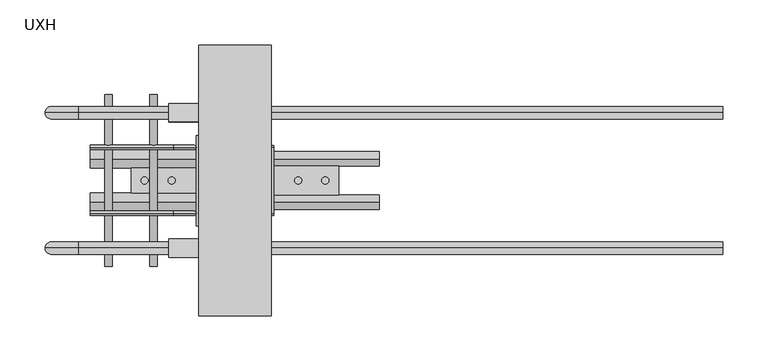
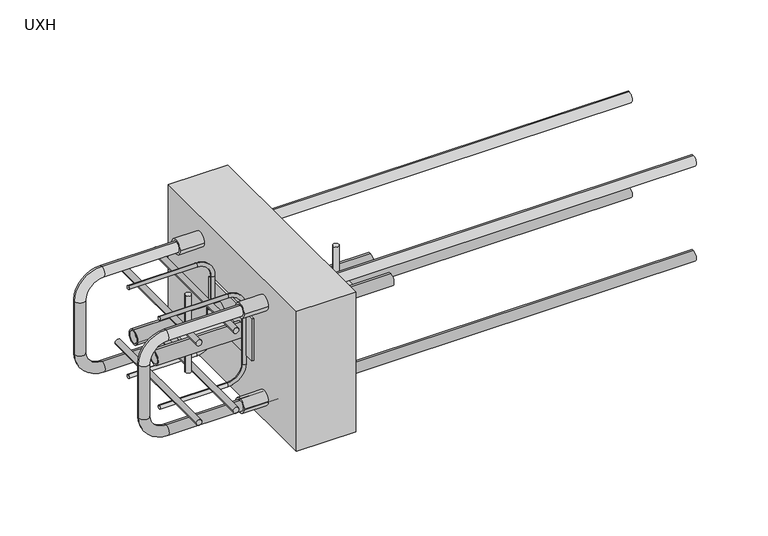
"""IFC4 building model written with IfcOpenShell, lengths in millimetres: proxy geometry, ACINOXplus_Typenreihe_UX : UXH."""

from ifc_helpers import new_model, si_unit, point, frame, frame_2d, origin, place, context, project, spatial, polyline, circle_curve, ellipse_curve, trimmed, segment, composite_curve, outline, extrude, source, transform, mapped, element, save
from ifc_brep_helpers import plane_surface, cylinder_surface, revolved_surface, advanced_brep


def uxh_c58978f4(model_context):
    return source(origin(), model_context, "Body", "SolidModel", [
        extrude(outline(composite_curve([segment(trimmed(circle_curve(frame_2d((-100.0, 0.0)), 4.0), [point((-104.0, 0.0))], [point((-96.0, 0.0))], False, "CARTESIAN"), True, "CONTINUOUS"), segment(trimmed(circle_curve(frame_2d((-100.0, 0.0)), 4.0), [point((-96.0, 0.0))], [point((-104.0, 0.0))], False, "CARTESIAN"), True, "CONTINUOUS")], self_intersect=False)), frame((0.0, 0.0, -155.0), z_axis=(0.0, 0.0, 1.0), x_axis=(1.0, 0.0, 0.0)), (0.0, 0.0, 1.0), 110.0),
        extrude(outline(composite_curve([segment(trimmed(circle_curve(frame_2d((-70.0, 0.0)), 4.0), [point((-74.0, 0.0))], [point((-66.0, 0.0))], False, "CARTESIAN"), True, "CONTINUOUS"), segment(trimmed(circle_curve(frame_2d((-70.0, 0.0)), 4.0), [point((-66.0, 0.0))], [point((-74.0, 0.0))], False, "CARTESIAN"), True, "CONTINUOUS")], self_intersect=False)), frame((0.0, 0.0, -125.0), z_axis=(0.0, 0.0, 1.0), x_axis=(1.0, 0.0, 0.0)), (0.0, 0.0, 1.0), 50.0),
        extrude(outline(composite_curve([segment(trimmed(circle_curve(frame_2d((70.0, 0.0)), 4.0), [point((66.0, 0.0))], [point((74.0, 0.0))], False, "CARTESIAN"), True, "CONTINUOUS"), segment(trimmed(circle_curve(frame_2d((70.0, 0.0)), 4.0), [point((74.0, 0.0))], [point((66.0, 0.0))], False, "CARTESIAN"), True, "CONTINUOUS")], self_intersect=False)), frame((0.0, 0.0, -125.0), z_axis=(0.0, 0.0, 1.0), x_axis=(1.0, 0.0, 0.0)), (0.0, 0.0, 1.0), 50.0),
        extrude(outline(composite_curve([segment(trimmed(circle_curve(frame_2d((100.0, 0.0)), 4.0), [point((96.0, 0.0))], [point((104.0, 0.0))], False, "CARTESIAN"), True, "CONTINUOUS"), segment(trimmed(circle_curve(frame_2d((100.0, 0.0)), 4.0), [point((104.0, 0.0))], [point((96.0, 0.0))], False, "CARTESIAN"), True, "CONTINUOUS")], self_intersect=False)), frame((0.0, 0.0, -155.0), z_axis=(0.0, 0.0, 1.0), x_axis=(1.0, 0.0, 0.0)), (0.0, 0.0, 1.0), 110.0),
        extrude(outline(composite_curve([segment(trimmed(circle_curve(frame_2d((24.0, -100.0)), 8.0), [point((24.0, -92.0))], [point((24.0, -108.0))], False, "CARTESIAN"), True, "CONTINUOUS"), segment(trimmed(circle_curve(frame_2d((24.0, -100.0)), 8.0), [point((24.0, -108.0))], [point((24.0, -92.0))], False, "CARTESIAN"), True, "CONTINUOUS")], self_intersect=False)), frame((-160.0, 0.0, 0.0), z_axis=(1.0, 0.0, 0.0), x_axis=(0.0, 1.0, 0.0)), (0.0, 0.0, 1.0), 320.0),
        extrude(outline(composite_curve([segment(trimmed(circle_curve(frame_2d((-24.0, -100.0)), 8.0), [point((-24.0, -92.0))], [point((-24.0, -108.0))], False, "CARTESIAN"), True, "CONTINUOUS"), segment(trimmed(circle_curve(frame_2d((-24.0, -100.0)), 8.0), [point((-24.0, -108.0))], [point((-24.0, -92.0))], False, "CARTESIAN"), True, "CONTINUOUS")], self_intersect=False)), frame((-160.0, 0.0, 0.0), z_axis=(1.0, 0.0, 0.0), x_axis=(0.0, 1.0, 0.0)), (0.0, 0.0, 1.0), 320.0),
        advanced_brep(
        [(-43.0, -50.1737701, -130.0), (-43.0, -50.1737701, -70.0), (-43.0, 50.0, -70.0), (-43.0, 50.0, -130.0), (-43.0, -24.0, -110.0), (-43.0, -24.0, -90.0), (-43.0, 24.0, -110.0), (-43.0, 24.0, -90.0), (-43.0, -24.0, -108.0), (-43.0, -24.0, -92.0), (-43.0, 24.0, -108.0), (-43.0, 24.0, -92.0), (-40.0, -50.1737701, -130.0), (-40.0, 50.0, -130.0), (-40.0, 50.0, -70.0), (-40.0, -50.1737701, -70.0), (-160.0, -24.0, -90.0), (-160.0, -24.0, -110.0), (-160.0, -24.0, -92.0), (-160.0, -24.0, -108.0), (-160.0, 24.0, -90.0), (-160.0, 24.0, -110.0), (-160.0, 24.0, -92.0), (-160.0, 24.0, -108.0)],
        [
            (0, 1),
            (1, 2),
            (2, 3),
            (3, 0),
            (4, 5, circle_curve(frame((-43.0, -24.0, -100.0), z_axis=(1.0, 0.0, 0.0), x_axis=(0.0, 0.0, -1.0)), 10.0)),
            (5, 4, circle_curve(frame((-43.0, -24.0, -100.0), z_axis=(1.0, 0.0, 0.0), x_axis=(0.0, 0.0, -1.0)), 10.0)),
            (6, 7, circle_curve(frame((-43.0, 24.0, -100.0), z_axis=(1.0, 0.0, 0.0), x_axis=(0.0, 0.0, -1.0)), 10.0)),
            (7, 6, circle_curve(frame((-43.0, 24.0, -100.0), z_axis=(1.0, 0.0, 0.0), x_axis=(0.0, 0.0, -1.0)), 10.0)),
            (8, 9, circle_curve(frame((-43.0, -24.0, -100.0), z_axis=(-1.0, 0.0, 0.0), x_axis=(0.0, 0.0, -1.0)), 8.0)),
            (9, 8, circle_curve(frame((-43.0, -24.0, -100.0), z_axis=(-1.0, 0.0, 0.0), x_axis=(0.0, 0.0, -1.0)), 8.0)),
            (10, 11, circle_curve(frame((-43.0, 24.0, -100.0), z_axis=(-1.0, 0.0, 0.0), x_axis=(0.0, 0.0, -1.0)), 8.0)),
            (11, 10, circle_curve(frame((-43.0, 24.0, -100.0), z_axis=(-1.0, 0.0, 0.0), x_axis=(0.0, 0.0, -1.0)), 8.0)),
            (12, 13),
            (13, 14),
            (14, 15),
            (15, 12),
            (0, 12),
            (15, 1),
            (14, 2),
            (13, 3),
            (16, 17, circle_curve(frame((-160.0, -24.0, -100.0), z_axis=(-1.0, 0.0, 0.0), x_axis=(0.0, 0.0, -1.0)), 10.0)),
            (17, 16, circle_curve(frame((-160.0, -24.0, -100.0), z_axis=(-1.0, 0.0, 0.0), x_axis=(0.0, 0.0, -1.0)), 10.0)),
            (18, 19, circle_curve(frame((-160.0, -24.0, -100.0), z_axis=(1.0, 0.0, 0.0), x_axis=(0.0, 0.0, -1.0)), 8.0)),
            (19, 18, circle_curve(frame((-160.0, -24.0, -100.0), z_axis=(1.0, 0.0, 0.0), x_axis=(0.0, 0.0, -1.0)), 8.0)),
            (20, 21, circle_curve(frame((-160.0, 24.0, -100.0), z_axis=(-1.0, 0.0, 0.0), x_axis=(0.0, 0.0, -1.0)), 10.0)),
            (21, 20, circle_curve(frame((-160.0, 24.0, -100.0), z_axis=(-1.0, 0.0, 0.0), x_axis=(0.0, 0.0, -1.0)), 10.0)),
            (22, 23, circle_curve(frame((-160.0, 24.0, -100.0), z_axis=(1.0, 0.0, 0.0), x_axis=(0.0, 0.0, -1.0)), 8.0)),
            (23, 22, circle_curve(frame((-160.0, 24.0, -100.0), z_axis=(1.0, 0.0, 0.0), x_axis=(0.0, 0.0, -1.0)), 8.0)),
            (18, 9),
            (8, 19),
            (22, 11),
            (10, 23),
            (16, 5),
            (4, 17),
            (20, 7),
            (6, 21),
        ],
        [
            plane_surface(frame((-43.0, -50.1737701, -70.0), z_axis=(-1.0, 0.0, 0.0), x_axis=(0.0, 0.0, 1.0))),
            plane_surface(frame((-40.0, -50.1737701, -70.0), z_axis=(1.0, 0.0, 0.0), x_axis=(0.0, 0.0, -1.0))),
            plane_surface(frame((-43.0, -50.1737701, -130.0), z_axis=(0.0, -1.0, 0.0), x_axis=(1.0, 0.0, 0.0))),
            plane_surface(frame((-43.0, -50.1737701, -70.0), z_axis=(0.0, 0.0, 1.0), x_axis=(1.0, 0.0, 0.0))),
            plane_surface(frame((-43.0, 50.0, -70.0), z_axis=(0.0, 1.0, 0.0), x_axis=(1.0, 0.0, 0.0))),
            plane_surface(frame((-43.0, 50.0, -130.0), z_axis=(0.0, 0.0, -1.0), x_axis=(1.0, 0.0, 0.0))),
            plane_surface(frame((-160.0, -24.0, -108.0), z_axis=(-1.0, 0.0, 0.0), x_axis=(0.0, 1.0, 0.0))),
            revolved_surface(polyline([(-43.0, -24.0, -108.0), (-160.0, -24.0, -108.0)]), (-43.0, -24.0, -100.0), (1.0, 0.0, 0.0)),
            revolved_surface(polyline([(-43.0, 24.0, -108.0), (-160.0, 24.0, -108.0)]), (0.0, 24.0, -100.0), (1.0, 0.0, 0.0)),
            cylinder_surface(frame((0.0, -24.0, -100.0), z_axis=(-1.0, 0.0, 0.0), x_axis=(0.0, 0.0, -1.0)), 10.0),
            cylinder_surface(frame((0.0, 24.0, -100.0), z_axis=(-1.0, 0.0, 0.0), x_axis=(0.0, 0.0, -1.0)), 10.0),
        ],
        [
            (0, [[1, 2, 3, 4], [5, 6], [7, 8]]),
            (0, [[9, 10]]),
            (0, [[11, 12]]),
            (1, [[13, 14, 15, 16]]),
            (2, [[-1, 17, -16, 18]]),
            (3, [[-2, -18, -15, 19]]),
            (4, [[-3, -19, -14, 20]]),
            (5, [[-4, -20, -13, -17]]),
            (6, [[21, 22], [23, 24]]),
            (6, [[25, 26], [27, 28]]),
            (7, [[-23, 29, -9, 30]]),
            (7, [[-24, -30, -10, -29]]),
            (8, [[-27, 31, -11, 32]]),
            (8, [[-28, -32, -12, -31]]),
            (9, [[-21, 33, -5, 34]]),
            (9, [[-22, -34, -6, -33]]),
            (10, [[-25, 35, -7, 36]]),
            (10, [[-26, -36, -8, -35]]),
        ],
    ),
        extrude(outline(composite_curve([segment(polyline([(-37.3055432, -85.0), (37.3055432, -85.0)]), True, "CONTINUOUS"), segment(trimmed(circle_curve(frame_2d((-25.94001, -100.0)), 65.0), [point((37.3055432, -85.0))], [point((37.3055432, -115.0))], False, "CARTESIAN"), True, "CONTINUOUS"), segment(polyline([(37.3055432, -115.0), (-37.3055432, -115.0)]), True, "CONTINUOUS"), segment(trimmed(circle_curve(frame_2d((25.94001, -100.0)), 65.0), [point((-37.3055432, -115.0))], [point((-37.3055432, -85.0))], False, "CARTESIAN"), True, "CONTINUOUS")], self_intersect=False)), frame((40.0, 0.0, 0.0), z_axis=(1.0, 0.0, 0.0), x_axis=(0.0, 1.0, 0.0)), (0.0, 0.0, 1.0), 3.0254417),
        extrude(outline(polyline([(-115.0, -24.0), (-115.0, 24.0), (115.0, 24.0), (115.0, -24.0), (-115.0, -24.0)])), frame((0.0, 0.0, -102.0), z_axis=(0.0, 0.0, 1.0), x_axis=(1.0, 0.0, 0.0)), (0.0, 0.0, 1.0), 4.0),
        extrude(outline(composite_curve([segment(trimmed(circle_curve(frame_2d((-157.0, -90.0)), 4.0), [point((-157.0, -86.0))], [point((-157.0, -94.0))], False, "CARTESIAN"), True, "CONTINUOUS"), segment(trimmed(circle_curve(frame_2d((-157.0, -90.0)), 4.0), [point((-157.0, -94.0))], [point((-157.0, -86.0))], False, "CARTESIAN"), True, "CONTINUOUS")], self_intersect=False)), frame((0.0, -95.0, 0.0), z_axis=(0.0, 1.0, 0.0), x_axis=(0.0, 0.0, 1.0)), (0.0, 0.0, 1.0), 190.0),
        extrude(outline(composite_curve([segment(trimmed(circle_curve(frame_2d((-43.0, -90.0)), 4.0), [point((-43.0, -86.0))], [point((-43.0, -94.0))], False, "CARTESIAN"), True, "CONTINUOUS"), segment(trimmed(circle_curve(frame_2d((-43.0, -90.0)), 4.0), [point((-43.0, -94.0))], [point((-43.0, -86.0))], False, "CARTESIAN"), True, "CONTINUOUS")], self_intersect=False)), frame((0.0, -95.0, 0.0), z_axis=(0.0, 1.0, 0.0), x_axis=(0.0, 0.0, 1.0)), (0.0, 0.0, 1.0), 190.0),
        extrude(outline(composite_curve([segment(trimmed(circle_curve(frame_2d((-43.0, -140.0)), 4.0), [point((-43.0, -136.0))], [point((-43.0, -144.0))], False, "CARTESIAN"), True, "CONTINUOUS"), segment(trimmed(circle_curve(frame_2d((-43.0, -140.0)), 4.0), [point((-43.0, -144.0))], [point((-43.0, -136.0))], False, "CARTESIAN"), True, "CONTINUOUS")], self_intersect=False)), frame((0.0, -95.0, 0.0), z_axis=(0.0, 1.0, 0.0), x_axis=(0.0, 0.0, 1.0)), (0.0, 0.0, 1.0), 190.0),
        extrude(outline(composite_curve([segment(trimmed(circle_curve(frame_2d((-157.0, -140.0)), 4.0), [point((-157.0, -136.0))], [point((-157.0, -144.0))], False, "CARTESIAN"), True, "CONTINUOUS"), segment(trimmed(circle_curve(frame_2d((-157.0, -140.0)), 4.0), [point((-157.0, -144.0))], [point((-157.0, -136.0))], False, "CARTESIAN"), True, "CONTINUOUS")], self_intersect=False)), frame((0.0, -95.0, 0.0), z_axis=(0.0, 1.0, 0.0), x_axis=(0.0, 0.0, 1.0)), (0.0, 0.0, 1.0), 190.0),
        extrude(outline(polyline([(40.0, 150.0), (40.0, -150.0), (-40.0, -150.0), (-40.0, 150.0), (40.0, 150.0)])), frame((0.0, 0.0, -200.0), z_axis=(0.0, 0.0, 1.0), x_axis=(1.0, 0.0, 0.0)), (0.0, 0.0, 1.0), 200.0),
        advanced_brep(
        [(540.0, 75.0, -25.0), (540.0, 75.0, -39.0), (-173.0, 75.0, -25.0), (-173.0, 75.0, -39.0), (-196.0, 75.0, -62.0), (-210.0, 75.0, -62.0), (-210.0, 75.0, -138.0), (-196.0, 75.0, -138.0), (-173.0, 75.0, -161.0), (-173.0, 75.0, -175.0), (540.0, 75.0, -175.0), (540.0, 75.0, -161.0)],
        [
            (0, 1, circle_curve(frame((540.0, 75.0, -32.0), z_axis=(1.0, 0.0, 0.0), x_axis=(0.0, 0.0, -1.0)), 7.0)),
            (1, 0, circle_curve(frame((540.0, 75.0, -32.0), z_axis=(1.0, 0.0, 0.0), x_axis=(0.0, 0.0, -1.0)), 7.0)),
            (0, 2),
            (2, 3, circle_curve(frame((-173.0, 75.0, -32.0), z_axis=(1.0, 0.0, 0.0), x_axis=(0.0, 0.0, -1.0)), 7.0)),
            (3, 1),
            (3, 2, circle_curve(frame((-173.0, 75.0, -32.0), z_axis=(1.0, 0.0, 0.0), x_axis=(0.0, 0.0, -1.0)), 7.0)),
            (4, 3, circle_curve(frame((-173.0, 75.0, -62.0), z_axis=(0.0, 1.0, 0.0), x_axis=(0.0, 0.0, 1.0)), 23.0)),
            (2, 5, circle_curve(frame((-173.0, 75.0, -62.0), z_axis=(0.0, -1.0, 0.0), x_axis=(0.0, 0.0, 1.0)), 37.0)),
            (5, 4, circle_curve(frame((-203.0, 75.0, -62.0), z_axis=(0.0, 0.0, 1.0), x_axis=(1.0, 0.0, 0.0)), 7.0)),
            (4, 5, circle_curve(frame((-203.0, 75.0, -62.0), z_axis=(0.0, 0.0, 1.0), x_axis=(1.0, 0.0, 0.0)), 7.0)),
            (5, 6),
            (6, 7, circle_curve(frame((-203.0, 75.0, -138.0), z_axis=(0.0, 0.0, 1.0), x_axis=(1.0, 0.0, 0.0)), 7.0)),
            (7, 4),
            (7, 6, circle_curve(frame((-203.0, 75.0, -138.0), z_axis=(0.0, 0.0, 1.0), x_axis=(1.0, 0.0, 0.0)), 7.0)),
            (8, 7, circle_curve(frame((-173.0, 75.0, -138.0), z_axis=(0.0, 1.0, 0.0), x_axis=(-1.0, 0.0, 0.0)), 23.0)),
            (6, 9, circle_curve(frame((-173.0, 75.0, -138.0), z_axis=(0.0, -1.0, 0.0), x_axis=(-1.0, 0.0, 0.0)), 37.0)),
            (9, 8, circle_curve(frame((-173.0, 75.0, -168.0), z_axis=(-1.0, 0.0, 0.0), x_axis=(0.0, 0.0, 1.0)), 7.0)),
            (8, 9, circle_curve(frame((-173.0, 75.0, -168.0), z_axis=(-1.0, 0.0, 0.0), x_axis=(0.0, 0.0, 1.0)), 7.0)),
            (10, 11, circle_curve(frame((540.0, 75.0, -168.0), z_axis=(1.0, 0.0, 0.0), x_axis=(0.0, 0.0, 1.0)), 7.0)),
            (11, 10, circle_curve(frame((540.0, 75.0, -168.0), z_axis=(1.0, 0.0, 0.0), x_axis=(0.0, 0.0, 1.0)), 7.0)),
            (9, 10),
            (11, 8),
        ],
        [
            plane_surface(frame((540.0, 75.0, -32.0), z_axis=(1.0, 0.0, 0.0), x_axis=(0.0, -1.0, 0.0))),
            cylinder_surface(frame((540.0, 75.0, -32.0), z_axis=(1.0, 0.0, 0.0), x_axis=(0.0, 0.0, -1.0)), 7.0),
            revolved_surface(trimmed(ellipse_curve(frame((-173.0, 75.0, -32.0), z_axis=(1.0, 0.0, 0.0), x_axis=(0.0, 0.0, -1.0)), 7.0, 7.0), [point((-173.0, 75.0, -25.0))], [point((-173.0, 75.0, -39.0))], True, "CARTESIAN"), (-173.0, 75.0, -62.0), (0.0, -1.0, 0.0)),
            revolved_surface(trimmed(ellipse_curve(frame((-173.0, 75.0, -32.0), z_axis=(1.0, 0.0, 0.0), x_axis=(0.0, 0.0, -1.0)), 7.0, 7.0), [point((-173.0, 75.0, -39.0))], [point((-173.0, 75.0, -25.0))], True, "CARTESIAN"), (-173.0, 75.0, -62.0), (0.0, -1.0, 0.0)),
            cylinder_surface(frame((-203.0, 75.0, -62.0), z_axis=(0.0, 0.0, 1.0), x_axis=(1.0, 0.0, 0.0)), 7.0),
            revolved_surface(trimmed(ellipse_curve(frame((-203.0, 75.0, -138.0), z_axis=(0.0, 0.0, 1.0), x_axis=(1.0, 0.0, 0.0)), 7.0, 7.0), [point((-210.0, 75.0, -138.0))], [point((-196.0, 75.0, -138.0))], True, "CARTESIAN"), (-173.0, 75.0, -138.0), (0.0, -1.0, 0.0)),
            revolved_surface(trimmed(ellipse_curve(frame((-203.0, 75.0, -138.0), z_axis=(0.0, 0.0, 1.0), x_axis=(1.0, 0.0, 0.0)), 7.0, 7.0), [point((-196.0, 75.0, -138.0))], [point((-210.0, 75.0, -138.0))], True, "CARTESIAN"), (-173.0, 75.0, -138.0), (0.0, -1.0, 0.0)),
            plane_surface(frame((540.0, 75.0, -168.0), z_axis=(1.0, 0.0, 0.0), x_axis=(0.0, -1.0, 0.0))),
            cylinder_surface(frame((-173.0, 75.0, -168.0), z_axis=(-1.0, 0.0, 0.0), x_axis=(0.0, 0.0, 1.0)), 7.0),
        ],
        [
            (0, [[1, 2]]),
            (1, [[-1, 3, 4, 5]]),
            (1, [[-2, -5, 6, -3]]),
            (2, [[7, -4, 8, 9]]),
            (3, [[-8, -6, -7, 10]]),
            (4, [[-9, 11, 12, 13]]),
            (4, [[-10, -13, 14, -11]]),
            (5, [[15, -12, 16, 17]]),
            (6, [[-16, -14, -15, 18]]),
            (7, [[19, 20]]),
            (8, [[-17, 21, -20, 22]]),
            (8, [[-18, -22, -19, -21]]),
        ],
    ),
        advanced_brep(
        [(540.0, -75.0, -25.0), (540.0, -75.0, -39.0), (-173.0, -75.0, -25.0), (-173.0, -75.0, -39.0), (-196.0, -75.0, -62.0), (-210.0, -75.0, -62.0), (-210.0, -75.0, -138.0), (-196.0, -75.0, -138.0), (-173.0, -75.0, -161.0), (-173.0, -75.0, -175.0), (540.0, -75.0, -175.0), (540.0, -75.0, -161.0)],
        [
            (0, 1, circle_curve(frame((540.0, -75.0, -32.0), z_axis=(1.0, 0.0, 0.0), x_axis=(0.0, 0.0, -1.0)), 7.0)),
            (1, 0, circle_curve(frame((540.0, -75.0, -32.0), z_axis=(1.0, 0.0, 0.0), x_axis=(0.0, 0.0, -1.0)), 7.0)),
            (0, 2),
            (2, 3, circle_curve(frame((-173.0, -75.0, -32.0), z_axis=(1.0, 0.0, 0.0), x_axis=(0.0, 0.0, -1.0)), 7.0)),
            (3, 1),
            (3, 2, circle_curve(frame((-173.0, -75.0, -32.0), z_axis=(1.0, 0.0, 0.0), x_axis=(0.0, 0.0, -1.0)), 7.0)),
            (4, 3, circle_curve(frame((-173.0, -75.0, -62.0), z_axis=(0.0, 1.0, 0.0), x_axis=(0.0, 0.0, 1.0)), 23.0)),
            (2, 5, circle_curve(frame((-173.0, -75.0, -62.0), z_axis=(0.0, -1.0, 0.0), x_axis=(0.0, 0.0, 1.0)), 37.0)),
            (5, 4, circle_curve(frame((-203.0, -75.0, -62.0), z_axis=(0.0, 0.0, 1.0), x_axis=(1.0, 0.0, 0.0)), 7.0)),
            (4, 5, circle_curve(frame((-203.0, -75.0, -62.0), z_axis=(0.0, 0.0, 1.0), x_axis=(1.0, 0.0, 0.0)), 7.0)),
            (5, 6),
            (6, 7, circle_curve(frame((-203.0, -75.0, -138.0), z_axis=(0.0, 0.0, 1.0), x_axis=(1.0, 0.0, 0.0)), 7.0)),
            (7, 4),
            (7, 6, circle_curve(frame((-203.0, -75.0, -138.0), z_axis=(0.0, 0.0, 1.0), x_axis=(1.0, 0.0, 0.0)), 7.0)),
            (8, 7, circle_curve(frame((-173.0, -75.0, -138.0), z_axis=(0.0, 1.0, 0.0), x_axis=(-1.0, 0.0, 0.0)), 23.0)),
            (6, 9, circle_curve(frame((-173.0, -75.0, -138.0), z_axis=(0.0, -1.0, 0.0), x_axis=(-1.0, 0.0, 0.0)), 37.0)),
            (9, 8, circle_curve(frame((-173.0, -75.0, -168.0), z_axis=(-1.0, 0.0, 0.0), x_axis=(0.0, 0.0, 1.0)), 7.0)),
            (8, 9, circle_curve(frame((-173.0, -75.0, -168.0), z_axis=(-1.0, 0.0, 0.0), x_axis=(0.0, 0.0, 1.0)), 7.0)),
            (10, 11, circle_curve(frame((540.0, -75.0, -168.0), z_axis=(1.0, 0.0, 0.0), x_axis=(0.0, 0.0, 1.0)), 7.0)),
            (11, 10, circle_curve(frame((540.0, -75.0, -168.0), z_axis=(1.0, 0.0, 0.0), x_axis=(0.0, 0.0, 1.0)), 7.0)),
            (9, 10),
            (11, 8),
        ],
        [
            plane_surface(frame((540.0, -75.0, -32.0), z_axis=(1.0, 0.0, 0.0), x_axis=(0.0, -1.0, 0.0))),
            cylinder_surface(frame((540.0, -75.0, -32.0), z_axis=(1.0, 0.0, 0.0), x_axis=(0.0, 0.0, -1.0)), 7.0),
            revolved_surface(trimmed(ellipse_curve(frame((-173.0, -75.0, -32.0), z_axis=(1.0, 0.0, 0.0), x_axis=(0.0, 0.0, -1.0)), 7.0, 7.0), [point((-173.0, -75.0, -25.0))], [point((-173.0, -75.0, -39.0))], True, "CARTESIAN"), (-173.0, -75.0, -62.0), (0.0, -1.0, 0.0)),
            revolved_surface(trimmed(ellipse_curve(frame((-173.0, -75.0, -32.0), z_axis=(1.0, 0.0, 0.0), x_axis=(0.0, 0.0, -1.0)), 7.0, 7.0), [point((-173.0, -75.0, -39.0))], [point((-173.0, -75.0, -25.0))], True, "CARTESIAN"), (-173.0, -75.0, -62.0), (0.0, -1.0, 0.0)),
            cylinder_surface(frame((-203.0, -75.0, -62.0), z_axis=(0.0, 0.0, 1.0), x_axis=(1.0, 0.0, 0.0)), 7.0),
            revolved_surface(trimmed(ellipse_curve(frame((-203.0, -75.0, -138.0), z_axis=(0.0, 0.0, 1.0), x_axis=(1.0, 0.0, 0.0)), 7.0, 7.0), [point((-210.0, -75.0, -138.0))], [point((-196.0, -75.0, -138.0))], True, "CARTESIAN"), (-173.0, -75.0, -138.0), (0.0, -1.0, 0.0)),
            revolved_surface(trimmed(ellipse_curve(frame((-203.0, -75.0, -138.0), z_axis=(0.0, 0.0, 1.0), x_axis=(1.0, 0.0, 0.0)), 7.0, 7.0), [point((-196.0, -75.0, -138.0))], [point((-210.0, -75.0, -138.0))], True, "CARTESIAN"), (-173.0, -75.0, -138.0), (0.0, -1.0, 0.0)),
            plane_surface(frame((540.0, -75.0, -168.0), z_axis=(1.0, 0.0, 0.0), x_axis=(0.0, -1.0, 0.0))),
            cylinder_surface(frame((-173.0, -75.0, -168.0), z_axis=(-1.0, 0.0, 0.0), x_axis=(0.0, 0.0, 1.0)), 7.0),
        ],
        [
            (0, [[1, 2]]),
            (1, [[-1, 3, 4, 5]]),
            (1, [[-2, -5, 6, -3]]),
            (2, [[7, -4, 8, 9]]),
            (3, [[-8, -6, -7, 10]]),
            (4, [[-9, 11, 12, 13]]),
            (4, [[-10, -13, 14, -11]]),
            (5, [[15, -12, 16, 17]]),
            (6, [[-16, -14, -15, 18]]),
            (7, [[19, 20]]),
            (8, [[-17, 21, -20, 22]]),
            (8, [[-18, -22, -19, -21]]),
        ],
    ),
        extrude(outline(composite_curve([segment(trimmed(circle_curve(frame_2d((75.0, -168.0)), 10.0), [point((65.0, -168.0))], [point((85.0, -168.0))], False, "CARTESIAN"), True, "CONTINUOUS"), segment(trimmed(circle_curve(frame_2d((75.0, -168.0)), 10.0), [point((85.0, -168.0))], [point((65.0, -168.0))], False, "CARTESIAN"), True, "CONTINUOUS")], self_intersect=False), holes=[composite_curve([segment(trimmed(circle_curve(frame_2d((75.0, -168.0)), 7.0), [point((68.0, -168.0))], [point((82.0, -168.0))], True, "CARTESIAN"), True, "CONTINUOUS"), segment(trimmed(circle_curve(frame_2d((75.0, -168.0)), 7.0), [point((82.0, -168.0))], [point((68.0, -168.0))], True, "CARTESIAN"), True, "CONTINUOUS")], self_intersect=False)]), frame((-73.0, 0.0, 0.0), z_axis=(1.0, 0.0, 0.0), x_axis=(0.0, 1.0, 0.0)), (0.0, 0.0, 1.0), 33.0),
        extrude(outline(composite_curve([segment(trimmed(circle_curve(frame_2d((-75.0, -168.0)), 10.0), [point((-85.0, -168.0))], [point((-65.0, -168.0))], False, "CARTESIAN"), True, "CONTINUOUS"), segment(trimmed(circle_curve(frame_2d((-75.0, -168.0)), 10.0), [point((-65.0, -168.0))], [point((-85.0, -168.0))], False, "CARTESIAN"), True, "CONTINUOUS")], self_intersect=False), holes=[composite_curve([segment(trimmed(circle_curve(frame_2d((-75.0, -168.0)), 7.0), [point((-82.0, -168.0))], [point((-68.0, -168.0))], True, "CARTESIAN"), True, "CONTINUOUS"), segment(trimmed(circle_curve(frame_2d((-75.0, -168.0)), 7.0), [point((-68.0, -168.0))], [point((-82.0, -168.0))], True, "CARTESIAN"), True, "CONTINUOUS")], self_intersect=False)]), frame((-73.0, 0.0, 0.0), z_axis=(1.0, 0.0, 0.0), x_axis=(0.0, 1.0, 0.0)), (0.0, 0.0, 1.0), 33.0),
        extrude(outline(composite_curve([segment(trimmed(circle_curve(frame_2d((-75.0, -32.0)), 10.0), [point((-85.0, -32.0))], [point((-65.0, -32.0))], False, "CARTESIAN"), True, "CONTINUOUS"), segment(trimmed(circle_curve(frame_2d((-75.0, -32.0)), 10.0), [point((-65.0, -32.0))], [point((-85.0, -32.0))], False, "CARTESIAN"), True, "CONTINUOUS")], self_intersect=False), holes=[composite_curve([segment(trimmed(circle_curve(frame_2d((-75.0, -32.0)), 7.0), [point((-82.0, -32.0))], [point((-68.0, -32.0))], True, "CARTESIAN"), True, "CONTINUOUS"), segment(trimmed(circle_curve(frame_2d((-75.0, -32.0)), 7.0), [point((-68.0, -32.0))], [point((-82.0, -32.0))], True, "CARTESIAN"), True, "CONTINUOUS")], self_intersect=False)]), frame((-73.0, 0.0, 0.0), z_axis=(1.0, 0.0, 0.0), x_axis=(0.0, 1.0, 0.0)), (0.0, 0.0, 1.0), 33.0),
        extrude(outline(composite_curve([segment(trimmed(circle_curve(frame_2d((75.0, -32.0)), 10.0), [point((65.0, -32.0))], [point((85.0, -32.0))], False, "CARTESIAN"), True, "CONTINUOUS"), segment(trimmed(circle_curve(frame_2d((75.0, -32.0)), 10.0), [point((85.0, -32.0))], [point((65.0, -32.0))], False, "CARTESIAN"), True, "CONTINUOUS")], self_intersect=False), holes=[composite_curve([segment(trimmed(circle_curve(frame_2d((75.0, -32.0)), 7.0), [point((68.0, -32.0))], [point((82.0, -32.0))], True, "CARTESIAN"), True, "CONTINUOUS"), segment(trimmed(circle_curve(frame_2d((75.0, -32.0)), 7.0), [point((82.0, -32.0))], [point((68.0, -32.0))], True, "CARTESIAN"), True, "CONTINUOUS")], self_intersect=False)]), frame((-73.0, 0.0, 0.0), z_axis=(1.0, 0.0, 0.0), x_axis=(0.0, 1.0, 0.0)), (0.0, 0.0, 1.0), 33.0),
        advanced_brep(
        [(-160.0, -36.5, -34.0), (-160.0, -36.5, -39.0), (-160.0, -36.5, -166.0), (-160.0, -36.5, -161.0), (-68.0, -36.5, -34.0), (-68.0, -36.5, -39.0), (-48.0, -36.5, -59.0), (-43.0, -36.5, -59.0), (-43.0, -36.5, -141.0), (-48.0, -36.5, -141.0), (-68.0, -36.5, -161.0), (-68.0, -36.5, -166.0)],
        [
            (0, 1, circle_curve(frame((-160.0, -36.5, -36.5), z_axis=(-1.0, 0.0, 0.0), x_axis=(0.0, 0.0, -1.0)), 2.5)),
            (1, 0, circle_curve(frame((-160.0, -36.5, -36.5), z_axis=(-1.0, 0.0, 0.0), x_axis=(0.0, 0.0, -1.0)), 2.5)),
            (2, 3, circle_curve(frame((-160.0, -36.5, -163.5), z_axis=(-1.0, 0.0, 0.0), x_axis=(0.0, 0.0, 1.0)), 2.5)),
            (3, 2, circle_curve(frame((-160.0, -36.5, -163.5), z_axis=(-1.0, 0.0, 0.0), x_axis=(0.0, 0.0, 1.0)), 2.5)),
            (0, 4),
            (4, 5, circle_curve(frame((-68.0, -36.5, -36.5), z_axis=(-1.0, 0.0, 0.0), x_axis=(0.0, 0.0, -1.0)), 2.5)),
            (5, 1),
            (5, 4, circle_curve(frame((-68.0, -36.5, -36.5), z_axis=(-1.0, 0.0, 0.0), x_axis=(0.0, 0.0, -1.0)), 2.5)),
            (6, 5, circle_curve(frame((-68.0, -36.5, -59.0), z_axis=(0.0, -1.0, 0.0), x_axis=(0.0, 0.0, 1.0)), 20.0)),
            (4, 7, circle_curve(frame((-68.0, -36.5, -59.0), z_axis=(0.0, 1.0, 0.0), x_axis=(0.0, 0.0, 1.0)), 25.0)),
            (7, 6, circle_curve(frame((-45.5, -36.5, -59.0), z_axis=(0.0, 0.0, 1.0), x_axis=(-1.0, 0.0, 0.0)), 2.5)),
            (6, 7, circle_curve(frame((-45.5, -36.5, -59.0), z_axis=(0.0, 0.0, 1.0), x_axis=(-1.0, 0.0, 0.0)), 2.5)),
            (7, 8),
            (8, 9, circle_curve(frame((-45.5, -36.5, -141.0), z_axis=(0.0, 0.0, 1.0), x_axis=(-1.0, 0.0, 0.0)), 2.5)),
            (9, 6),
            (9, 8, circle_curve(frame((-45.5, -36.5, -141.0), z_axis=(0.0, 0.0, 1.0), x_axis=(-1.0, 0.0, 0.0)), 2.5)),
            (10, 9, circle_curve(frame((-68.0, -36.5, -141.0), z_axis=(0.0, -1.0, 0.0), x_axis=(1.0, 0.0, 0.0)), 20.0)),
            (8, 11, circle_curve(frame((-68.0, -36.5, -141.0), z_axis=(0.0, 1.0, 0.0), x_axis=(1.0, 0.0, 0.0)), 25.0)),
            (11, 10, circle_curve(frame((-68.0, -36.5, -163.5), z_axis=(1.0, 0.0, 0.0), x_axis=(0.0, 0.0, 1.0)), 2.5)),
            (10, 11, circle_curve(frame((-68.0, -36.5, -163.5), z_axis=(1.0, 0.0, 0.0), x_axis=(0.0, 0.0, 1.0)), 2.5)),
            (11, 2),
            (3, 10),
        ],
        [
            plane_surface(frame((-160.0, -36.5, -39.0), z_axis=(-1.0, 0.0, 0.0), x_axis=(0.0, 1.0, 0.0))),
            plane_surface(frame((-160.0, -36.5, -161.0), z_axis=(-1.0, 0.0, 0.0), x_axis=(0.0, 1.0, 0.0))),
            cylinder_surface(frame((-160.0, -36.5, -36.5), z_axis=(-1.0, 0.0, 0.0), x_axis=(0.0, 0.0, -1.0)), 2.5),
            revolved_surface(trimmed(ellipse_curve(frame((-68.0, -36.5, -36.5), z_axis=(-1.0, 0.0, 0.0), x_axis=(0.0, 0.0, -1.0)), 2.5, 2.5), [point((-68.0, -36.5, -34.0))], [point((-68.0, -36.5, -39.0))], True, "CARTESIAN"), (-68.0, -36.5, -59.0), (0.0, 1.0, 0.0)),
            revolved_surface(trimmed(ellipse_curve(frame((-68.0, -36.5, -36.5), z_axis=(-1.0, 0.0, 0.0), x_axis=(0.0, 0.0, -1.0)), 2.5, 2.5), [point((-68.0, -36.5, -39.0))], [point((-68.0, -36.5, -34.0))], True, "CARTESIAN"), (-68.0, -36.5, -59.0), (0.0, 1.0, 0.0)),
            cylinder_surface(frame((-45.5, -36.5, -59.0), z_axis=(0.0, 0.0, 1.0), x_axis=(-1.0, 0.0, 0.0)), 2.5),
            revolved_surface(trimmed(ellipse_curve(frame((-45.5, -36.5, -141.0), z_axis=(0.0, 0.0, 1.0), x_axis=(-1.0, 0.0, 0.0)), 2.5, 2.5), [point((-43.0, -36.5, -141.0))], [point((-48.0, -36.5, -141.0))], True, "CARTESIAN"), (-68.0, -36.5, -141.0), (0.0, 1.0, 0.0)),
            revolved_surface(trimmed(ellipse_curve(frame((-45.5, -36.5, -141.0), z_axis=(0.0, 0.0, 1.0), x_axis=(-1.0, 0.0, 0.0)), 2.5, 2.5), [point((-48.0, -36.5, -141.0))], [point((-43.0, -36.5, -141.0))], True, "CARTESIAN"), (-68.0, -36.5, -141.0), (0.0, 1.0, 0.0)),
            cylinder_surface(frame((-68.0, -36.5, -163.5), z_axis=(1.0, 0.0, 0.0), x_axis=(0.0, 0.0, 1.0)), 2.5),
        ],
        [
            (0, [[1, 2]]),
            (1, [[3, 4]]),
            (2, [[-1, 5, 6, 7]]),
            (2, [[-2, -7, 8, -5]]),
            (3, [[9, -6, 10, 11]]),
            (4, [[-10, -8, -9, 12]]),
            (5, [[-11, 13, 14, 15]]),
            (5, [[-12, -15, 16, -13]]),
            (6, [[17, -14, 18, 19]]),
            (7, [[-18, -16, -17, 20]]),
            (8, [[-19, 21, -4, 22]]),
            (8, [[-20, -22, -3, -21]]),
        ],
    ),
        advanced_brep(
        [(-160.0, 36.5, -34.0), (-160.0, 36.5, -39.0), (-68.0, 36.5, -34.0), (-68.0, 36.5, -39.0), (-48.0, 36.5, -59.0), (-43.0, 36.5, -59.0), (-43.0, 36.5, -141.0), (-48.0, 36.5, -141.0), (-68.0, 36.5, -161.0), (-68.0, 36.5, -166.0), (-160.0, 36.5, -166.0), (-160.0, 36.5, -161.0)],
        [
            (0, 1, circle_curve(frame((-160.0, 36.5, -36.5), z_axis=(-1.0, 0.0, 0.0), x_axis=(0.0, 0.0, -1.0)), 2.5)),
            (1, 0, circle_curve(frame((-160.0, 36.5, -36.5), z_axis=(-1.0, 0.0, 0.0), x_axis=(0.0, 0.0, -1.0)), 2.5)),
            (0, 2),
            (2, 3, circle_curve(frame((-68.0, 36.5, -36.5), z_axis=(-1.0, 0.0, 0.0), x_axis=(0.0, 0.0, -1.0)), 2.5)),
            (3, 1),
            (3, 2, circle_curve(frame((-68.0, 36.5, -36.5), z_axis=(-1.0, 0.0, 0.0), x_axis=(0.0, 0.0, -1.0)), 2.5)),
            (4, 3, circle_curve(frame((-68.0, 36.5, -59.0), z_axis=(0.0, -1.0, 0.0), x_axis=(0.0, 0.0, 1.0)), 20.0)),
            (2, 5, circle_curve(frame((-68.0, 36.5, -59.0), z_axis=(0.0, 1.0, 0.0), x_axis=(0.0, 0.0, 1.0)), 25.0)),
            (5, 4, circle_curve(frame((-45.5, 36.5, -59.0), z_axis=(0.0, 0.0, 1.0), x_axis=(-1.0, 0.0, 0.0)), 2.5)),
            (4, 5, circle_curve(frame((-45.5, 36.5, -59.0), z_axis=(0.0, 0.0, 1.0), x_axis=(-1.0, 0.0, 0.0)), 2.5)),
            (5, 6),
            (6, 7, circle_curve(frame((-45.5, 36.5, -141.0), z_axis=(0.0, 0.0, 1.0), x_axis=(-1.0, 0.0, 0.0)), 2.5)),
            (7, 4),
            (7, 6, circle_curve(frame((-45.5, 36.5, -141.0), z_axis=(0.0, 0.0, 1.0), x_axis=(-1.0, 0.0, 0.0)), 2.5)),
            (8, 7, circle_curve(frame((-68.0, 36.5, -141.0), z_axis=(0.0, -1.0, 0.0), x_axis=(1.0, 0.0, 0.0)), 20.0)),
            (6, 9, circle_curve(frame((-68.0, 36.5, -141.0), z_axis=(0.0, 1.0, 0.0), x_axis=(1.0, 0.0, 0.0)), 25.0)),
            (9, 8, circle_curve(frame((-68.0, 36.5, -163.5), z_axis=(1.0, 0.0, 0.0), x_axis=(0.0, 0.0, 1.0)), 2.5)),
            (8, 9, circle_curve(frame((-68.0, 36.5, -163.5), z_axis=(1.0, 0.0, 0.0), x_axis=(0.0, 0.0, 1.0)), 2.5)),
            (10, 11, circle_curve(frame((-160.0, 36.5, -163.5), z_axis=(-1.0, 0.0, 0.0), x_axis=(0.0, 0.0, 1.0)), 2.5)),
            (11, 10, circle_curve(frame((-160.0, 36.5, -163.5), z_axis=(-1.0, 0.0, 0.0), x_axis=(0.0, 0.0, 1.0)), 2.5)),
            (9, 10),
            (11, 8),
        ],
        [
            plane_surface(frame((-160.0, 36.5, -39.0), z_axis=(-1.0, 0.0, 0.0), x_axis=(0.0, 1.0, 0.0))),
            cylinder_surface(frame((-160.0, 36.5, -36.5), z_axis=(-1.0, 0.0, 0.0), x_axis=(0.0, 0.0, -1.0)), 2.5),
            revolved_surface(trimmed(ellipse_curve(frame((-68.0, 36.5, -36.5), z_axis=(-1.0, 0.0, 0.0), x_axis=(0.0, 0.0, -1.0)), 2.5, 2.5), [point((-68.0, 36.5, -34.0))], [point((-68.0, 36.5, -39.0))], True, "CARTESIAN"), (-68.0, 36.5, -59.0), (0.0, 1.0, 0.0)),
            revolved_surface(trimmed(ellipse_curve(frame((-68.0, 36.5, -36.5), z_axis=(-1.0, 0.0, 0.0), x_axis=(0.0, 0.0, -1.0)), 2.5, 2.5), [point((-68.0, 36.5, -39.0))], [point((-68.0, 36.5, -34.0))], True, "CARTESIAN"), (-68.0, 36.5, -59.0), (0.0, 1.0, 0.0)),
            cylinder_surface(frame((-45.5, 36.5, -59.0), z_axis=(0.0, 0.0, 1.0), x_axis=(-1.0, 0.0, 0.0)), 2.5),
            revolved_surface(trimmed(ellipse_curve(frame((-45.5, 36.5, -141.0), z_axis=(0.0, 0.0, 1.0), x_axis=(-1.0, 0.0, 0.0)), 2.5, 2.5), [point((-43.0, 36.5, -141.0))], [point((-48.0, 36.5, -141.0))], True, "CARTESIAN"), (-68.0, 36.5, -141.0), (0.0, 1.0, 0.0)),
            revolved_surface(trimmed(ellipse_curve(frame((-45.5, 36.5, -141.0), z_axis=(0.0, 0.0, 1.0), x_axis=(-1.0, 0.0, 0.0)), 2.5, 2.5), [point((-48.0, 36.5, -141.0))], [point((-43.0, 36.5, -141.0))], True, "CARTESIAN"), (-68.0, 36.5, -141.0), (0.0, 1.0, 0.0)),
            plane_surface(frame((-160.0, 36.5, -161.0), z_axis=(-1.0, 0.0, 0.0), x_axis=(0.0, 1.0, 0.0))),
            cylinder_surface(frame((-68.0, 36.5, -163.5), z_axis=(1.0, 0.0, 0.0), x_axis=(0.0, 0.0, 1.0)), 2.5),
        ],
        [
            (0, [[1, 2]]),
            (1, [[-1, 3, 4, 5]]),
            (1, [[-2, -5, 6, -3]]),
            (2, [[7, -4, 8, 9]]),
            (3, [[-8, -6, -7, 10]]),
            (4, [[-9, 11, 12, 13]]),
            (4, [[-10, -13, 14, -11]]),
            (5, [[15, -12, 16, 17]]),
            (6, [[-16, -14, -15, 18]]),
            (7, [[19, 20]]),
            (8, [[-17, 21, -20, 22]]),
            (8, [[-18, -22, -19, -21]]),
        ],
    ),
    ])


if __name__ == "__main__":
    model = new_model("IFC4")
    model_context = context("Model", 3, world=origin())
    ifc_project = project(units=[si_unit("LENGTHUNIT", "METRE", prefix="MILLI")], contexts=[model_context])
    site = spatial("IfcSite", under=ifc_project)
    building = spatial("IfcBuilding", under=site)
    placement = place(None, origin())
    uxh_shape = uxh_c58978f4(model_context)
    element("IfcBuildingElementProxy", 1, Name="ACINOXplus_Typenreihe_UX : UXH", ObjectType="ACINOXplus_Typenreihe_UX : UXH", at=placement, inside=building, context=model_context, shape_type="MappedRepresentation", body=[
        mapped(uxh_shape, transform((0.0, 0.0, 0.0), x_axis=(1.0, 0.0, 0.0), y_axis=(0.0, 1.0, 0.0), z_axis=(0.0, 0.0, 1.0))),
    ])
    save(model, "model.ifc")
